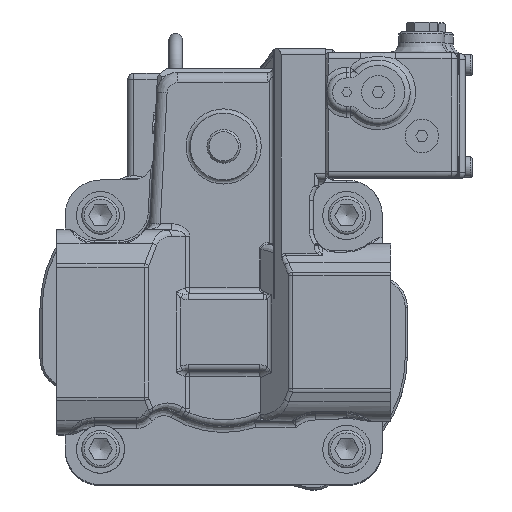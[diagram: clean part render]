
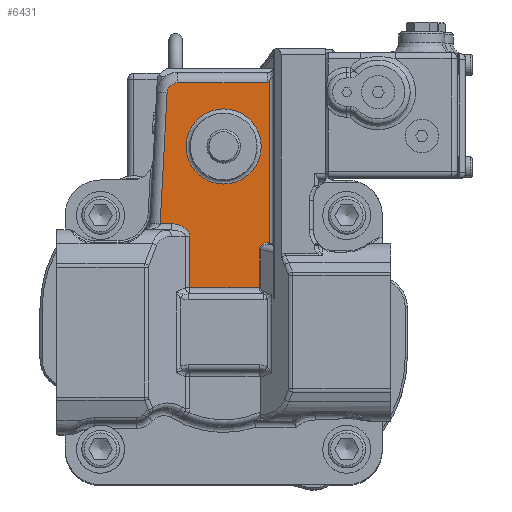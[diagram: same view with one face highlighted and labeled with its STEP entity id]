
A CAD part, top view. The second image highlights one B-rep face of the part: STEP entity #6431.
In plain terms, the highlighted planar face has unit normal (0, 0, 1).
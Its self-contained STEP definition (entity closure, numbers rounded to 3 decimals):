
#5894=CARTESIAN_POINT('',(22.,120.821,473.7));
#5895=VERTEX_POINT('',#5894);
#5911=CARTESIAN_POINT('',(22.,42.917,473.7));
#5912=VERTEX_POINT('',#5911);
#5913=CARTESIAN_POINT('',(22.,120.821,473.7));
#5914=DIRECTION('',(0.,-1.0,0.));
#5915=VECTOR('',#5914,77.904);
#5916=LINE('',#5913,#5915);
#5917=EDGE_CURVE('',#5895,#5912,#5916,.T.);
#6298=CARTESIAN_POINT('',(-2.261,42.265,473.7));
#6299=DIRECTION('',(0.0,0.0,1.0));
#6300=DIRECTION('',(1.0,0.0,0.0));
#6301=AXIS2_PLACEMENT_3D('',#6298,#6299,#6300);
#6302=PLANE('',#6301);
#6303=ORIENTED_EDGE('',*,*,#5917,.F.);
#6304=CARTESIAN_POINT('',(21.,119.5,473.7));
#6305=VERTEX_POINT('',#6304);
#6306=CARTESIAN_POINT('',(21.,119.5,473.7));
#6307=CARTESIAN_POINT('',(21.32,119.914,473.7));
#6308=CARTESIAN_POINT('',(21.666,120.358,473.7));
#6309=CARTESIAN_POINT('',(22.,120.821,473.7));
#6310=B_SPLINE_CURVE_WITH_KNOTS('',3,(#6306,#6307,#6308,#6309),.UNSPECIFIED.,.F.,.U.,(4,4),(0.0,0.157),.UNSPECIFIED.);
#6311=EDGE_CURVE('',#6305,#5895,#6310,.T.);
#6312=ORIENTED_EDGE('',*,*,#6311,.F.);
#6313=CARTESIAN_POINT('',(-22.115,119.5,473.7));
#6314=VERTEX_POINT('',#6313);
#6315=CARTESIAN_POINT('',(-22.115,119.5,473.7));
#6316=DIRECTION('',(1.0,0.0,0.0));
#6317=VECTOR('',#6316,43.115);
#6318=LINE('',#6315,#6317);
#6319=EDGE_CURVE('',#6314,#6305,#6318,.T.);
#6320=ORIENTED_EDGE('',*,*,#6319,.F.);
#6321=CARTESIAN_POINT('',(-27.108,114.762,473.7));
#6322=VERTEX_POINT('',#6321);
#6323=CARTESIAN_POINT('',(-22.115,114.5,473.7));
#6324=DIRECTION('',(0.,0.,-1.0));
#6325=DIRECTION('',(-0.688,0.725,0.));
#6326=AXIS2_PLACEMENT_3D('',#6323,#6324,#6325);
#6327=CIRCLE('',#6326,5.0);
#6328=EDGE_CURVE('',#6322,#6314,#6327,.T.);
#6329=ORIENTED_EDGE('',*,*,#6328,.F.);
#6330=CARTESIAN_POINT('',(-30.398,52.,473.7));
#6331=VERTEX_POINT('',#6330);
#6332=CARTESIAN_POINT('',(-30.398,52.,473.7));
#6333=DIRECTION('',(0.052,0.999,0.0));
#6334=VECTOR('',#6333,62.848);
#6335=LINE('',#6332,#6334);
#6336=EDGE_CURVE('',#6331,#6322,#6335,.T.);
#6337=ORIENTED_EDGE('',*,*,#6336,.F.);
#6338=CARTESIAN_POINT('',(-25.116,52.,473.7));
#6339=VERTEX_POINT('',#6338);
#6340=CARTESIAN_POINT('',(-25.116,52.,473.7));
#6341=DIRECTION('',(-1.0,0.0,0.0));
#6342=VECTOR('',#6341,5.282);
#6343=LINE('',#6340,#6342);
#6344=EDGE_CURVE('',#6339,#6331,#6343,.T.);
#6345=ORIENTED_EDGE('',*,*,#6344,.F.);
#6346=CARTESIAN_POINT('',(-16.318,46.,473.7));
#6347=VERTEX_POINT('',#6346);
#6348=CARTESIAN_POINT('',(-25.116,46.,473.7));
#6349=DIRECTION('',(0.0,0.0,1.0));
#6350=DIRECTION('',(1.0,0.0,0.0));
#6351=AXIS2_PLACEMENT_3D('',#6348,#6349,#6350);
#6352=ELLIPSE('',#6351,8.798,6.);
#6353=EDGE_CURVE('',#6347,#6339,#6352,.T.);
#6354=ORIENTED_EDGE('',*,*,#6353,.F.);
#6355=CARTESIAN_POINT('',(-16.318,21.354,473.7));
#6356=VERTEX_POINT('',#6355);
#6357=CARTESIAN_POINT('',(-16.318,21.354,473.7));
#6358=DIRECTION('',(0.0,1.0,0.0));
#6359=VECTOR('',#6358,24.646);
#6360=LINE('',#6357,#6359);
#6361=EDGE_CURVE('',#6356,#6347,#6360,.T.);
#6362=ORIENTED_EDGE('',*,*,#6361,.F.);
#6363=CARTESIAN_POINT('',(17.116,21.354,473.7));
#6364=VERTEX_POINT('',#6363);
#6365=CARTESIAN_POINT('',(17.116,21.354,473.7));
#6366=DIRECTION('',(-1.0,0.0,0.0));
#6367=VECTOR('',#6366,33.434);
#6368=LINE('',#6365,#6367);
#6369=EDGE_CURVE('',#6364,#6356,#6368,.T.);
#6370=ORIENTED_EDGE('',*,*,#6369,.F.);
#6371=CARTESIAN_POINT('',(17.116,39.499,473.7));
#6372=VERTEX_POINT('',#6371);
#6373=CARTESIAN_POINT('',(17.116,39.499,473.7));
#6374=DIRECTION('',(0.0,-1.0,0.0));
#6375=VECTOR('',#6374,18.145);
#6376=LINE('',#6373,#6375);
#6377=EDGE_CURVE('',#6372,#6364,#6376,.T.);
#6378=ORIENTED_EDGE('',*,*,#6377,.F.);
#6379=CARTESIAN_POINT('',(21.,43.082,473.7));
#6380=VERTEX_POINT('',#6379);
#6381=CARTESIAN_POINT('',(21.,43.081,473.7));
#6382=CARTESIAN_POINT('',(20.742,43.037,473.7));
#6383=CARTESIAN_POINT('',(20.327,42.941,473.7));
#6384=CARTESIAN_POINT('',(19.766,42.749,473.7));
#6385=CARTESIAN_POINT('',(19.314,42.549,473.7));
#6386=CARTESIAN_POINT('',(18.883,42.309,473.7));
#6387=CARTESIAN_POINT('',(18.475,42.025,473.7));
#6388=CARTESIAN_POINT('',(18.102,41.7,473.7));
#6389=CARTESIAN_POINT('',(17.662,41.21,473.7));
#6390=CARTESIAN_POINT('',(17.326,40.632,473.7));
#6391=CARTESIAN_POINT('',(17.147,39.995,473.7));
#6392=CARTESIAN_POINT('',(17.116,39.663,473.7));
#6393=CARTESIAN_POINT('',(17.116,39.499,473.7));
#6394=B_SPLINE_CURVE_WITH_KNOTS('',3,(#6381,#6382,#6383,#6384,#6385,#6386,#6387,#6388,#6389,#6390,#6391,#6392,#6393),.UNSPECIFIED.,.F.,.U.,(4,1,1,1,1,1,1,1,1,1,4),(-0.57,-0.492,-0.443,-0.394,-0.344,-0.295,-0.246,-0.197,-0.098,-0.049,0.0),.UNSPECIFIED.);
#6395=EDGE_CURVE('',#6380,#6372,#6394,.T.);
#6396=ORIENTED_EDGE('',*,*,#6395,.F.);
#6397=CARTESIAN_POINT('',(21.481,43.146,473.7));
#6398=VERTEX_POINT('',#6397);
#6399=CARTESIAN_POINT('',(21.481,43.146,473.7));
#6400=CARTESIAN_POINT('',(21.386,43.137,473.7));
#6401=CARTESIAN_POINT('',(21.226,43.118,473.7));
#6402=CARTESIAN_POINT('',(21.066,43.093,473.7));
#6403=CARTESIAN_POINT('',(21.,43.081,473.7));
#6404=B_SPLINE_CURVE_WITH_KNOTS('',3,(#6399,#6400,#6401,#6402,#6403),.UNSPECIFIED.,.F.,.U.,(4,1,4),(-0.619,-0.59,-0.57),.UNSPECIFIED.);
#6405=EDGE_CURVE('',#6398,#6380,#6404,.T.);
#6406=ORIENTED_EDGE('',*,*,#6405,.F.);
#6407=CARTESIAN_POINT('',(22.,42.917,473.7));
#6408=CARTESIAN_POINT('',(21.919,42.955,473.7));
#6409=CARTESIAN_POINT('',(21.837,42.991,473.7));
#6410=CARTESIAN_POINT('',(21.667,43.067,473.7));
#6411=CARTESIAN_POINT('',(21.578,43.105,473.7));
#6412=CARTESIAN_POINT('',(21.486,43.144,473.7));
#6413=CARTESIAN_POINT('',(21.484,43.145,473.7));
#6414=CARTESIAN_POINT('',(21.481,43.146,473.7));
#6415=B_SPLINE_CURVE_WITH_KNOTS('',3,(#6407,#6408,#6409,#6410,#6411,#6412,#6413,#6414),.UNSPECIFIED.,.F.,.U.,(4,2,2,4),(-0.056,-0.029,0.0,0.001),.UNSPECIFIED.);
#6416=EDGE_CURVE('',#5912,#6398,#6415,.T.);
#6417=ORIENTED_EDGE('',*,*,#6416,.F.);
#6418=EDGE_LOOP('',(#6303,#6312,#6320,#6329,#6337,#6345,#6354,#6362,#6370,#6378,#6396,#6406,#6417));
#6419=FACE_OUTER_BOUND('',#6418,.T.);
#6420=CARTESIAN_POINT('',(18.,89.,473.7));
#6421=VERTEX_POINT('',#6420);
#6422=CARTESIAN_POINT('',(0.,89.,473.7));
#6423=DIRECTION('',(0.0,0.0,1.0));
#6424=DIRECTION('',(-1.0,0.0,0.0));
#6425=AXIS2_PLACEMENT_3D('',#6422,#6423,#6424);
#6426=CIRCLE('',#6425,18.0);
#6427=EDGE_CURVE('',#6421,#6421,#6426,.T.);
#6428=ORIENTED_EDGE('',*,*,#6427,.F.);
#6429=EDGE_LOOP('',(#6428));
#6430=FACE_BOUND('',#6429,.T.);
#6431=ADVANCED_FACE('',(#6419,#6430),#6302,.T.);
